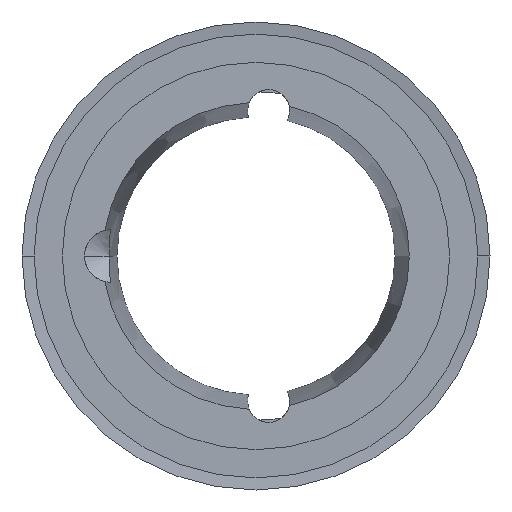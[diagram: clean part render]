
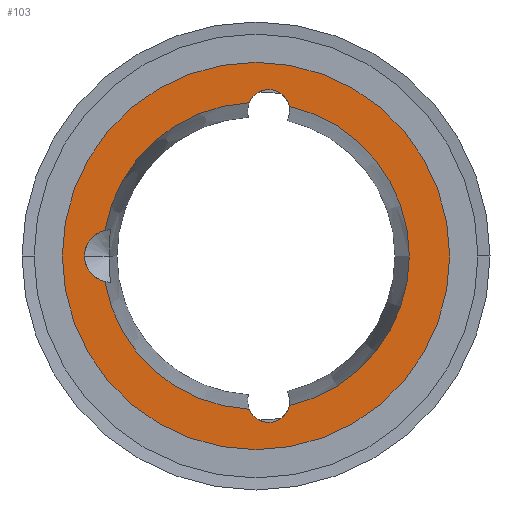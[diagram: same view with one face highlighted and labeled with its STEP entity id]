
A CAD part, left-side view. The second image highlights one B-rep face of the part: STEP entity #103.
In plain terms, the highlighted planar face has unit normal (-1, 0, 0).
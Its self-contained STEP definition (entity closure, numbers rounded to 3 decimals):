
#103 = ADVANCED_FACE( '', ( #368, #369 ), #370, .T. );
#368 = FACE_BOUND( '', #846, .T. );
#369 = FACE_OUTER_BOUND( '', #847, .T. );
#370 = PLANE( '', #848 );
#846 = EDGE_LOOP( '', ( #1484, #1485, #1486, #1487, #1488, #1489, #1490, #1491 ) );
#847 = EDGE_LOOP( '', ( #1492, #1493 ) );
#848 = AXIS2_PLACEMENT_3D( '', #1494, #1495, #1496 );
#1484 = ORIENTED_EDGE( '', *, *, #3404, .T. );
#1485 = ORIENTED_EDGE( '', *, *, #3395, .F. );
#1486 = ORIENTED_EDGE( '', *, *, #3411, .F. );
#1487 = ORIENTED_EDGE( '', *, *, #3385, .T. );
#1488 = ORIENTED_EDGE( '', *, *, #3412, .F. );
#1489 = ORIENTED_EDGE( '', *, *, #3372, .T. );
#1490 = ORIENTED_EDGE( '', *, *, #3415, .T. );
#1491 = ORIENTED_EDGE( '', *, *, #3391, .F. );
#1492 = ORIENTED_EDGE( '', *, *, #3331, .T. );
#1493 = ORIENTED_EDGE( '', *, *, #3416, .T. );
#1494 = CARTESIAN_POINT( '', ( 0., 32.25, 0. ) );
#1495 = DIRECTION( '', ( -1., 0., 0. ) );
#1496 = DIRECTION( '', ( 0., 1., 0. ) );
#3331 = EDGE_CURVE( '', #4005, #4009, #4011, .T. );
#3372 = EDGE_CURVE( '', #4086, #4083, #4087, .T. );
#3385 = EDGE_CURVE( '', #4108, #4106, #4109, .T. );
#3391 = EDGE_CURVE( '', #4117, #4119, #4120, .T. );
#3395 = EDGE_CURVE( '', #4124, #4127, #4128, .T. );
#3404 = EDGE_CURVE( '', #4117, #4127, #4141, .T. );
#3411 = EDGE_CURVE( '', #4108, #4124, #4149, .T. );
#3412 = EDGE_CURVE( '', #4086, #4106, #4150, .T. );
#3415 = EDGE_CURVE( '', #4083, #4119, #4153, .T. );
#3416 = EDGE_CURVE( '', #4009, #4005, #4154, .T. );
#4005 = VERTEX_POINT( '', #5127 );
#4009 = VERTEX_POINT( '', #5132 );
#4011 = CIRCLE( '', #5135, 36. );
#4083 = VERTEX_POINT( '', #5223 );
#4086 = VERTEX_POINT( '', #5227 );
#4087 = CIRCLE( '', #5228, 4.9 );
#4106 = VERTEX_POINT( '', #5293 );
#4108 = VERTEX_POINT( '', #5304 );
#4109 = CIRCLE( '', #5305, 3.95 );
#4117 = VERTEX_POINT( '', #5332 );
#4119 = VERTEX_POINT( '', #5343 );
#4120 = CIRCLE( '', #5344, 28.5 );
#4124 = VERTEX_POINT( '', #5382 );
#4127 = VERTEX_POINT( '', #5386 );
#4128 = CIRCLE( '', #5387, 28.5 );
#4141 = CIRCLE( '', #5420, 3.95 );
#4149 = CIRCLE( '', #5437, 28.5 );
#4150 = CIRCLE( '', #5438, 28.5 );
#4153 = CIRCLE( '', #5441, 4.9 );
#4154 = CIRCLE( '', #5442, 36. );
#5127 = CARTESIAN_POINT( '', ( 0., 36., 0. ) );
#5132 = CARTESIAN_POINT( '', ( 0., -36., 0. ) );
#5135 = AXIS2_PLACEMENT_3D( '', #6739, #6740, #6741 );
#5223 = CARTESIAN_POINT( '', ( 0., 31.885, 0. ) );
#5227 = CARTESIAN_POINT( '', ( 0., 28.098, -4.772 ) );
#5228 = AXIS2_PLACEMENT_3D( '', #6828, #6829, #6830 );
#5293 = CARTESIAN_POINT( '', ( 0., 1.308, -28.47 ) );
#5304 = CARTESIAN_POINT( '', ( 0., -6.214, -27.814 ) );
#5305 = AXIS2_PLACEMENT_3D( '', #6849, #6850, #6851 );
#5332 = CARTESIAN_POINT( '', ( 0., 1.308, 28.47 ) );
#5343 = CARTESIAN_POINT( '', ( 0., 28.098, 4.772 ) );
#5344 = AXIS2_PLACEMENT_3D( '', #6856, #6857, #6858 );
#5382 = CARTESIAN_POINT( '', ( 0., -28.5, 0. ) );
#5386 = CARTESIAN_POINT( '', ( 0., -6.214, 27.814 ) );
#5387 = AXIS2_PLACEMENT_3D( '', #6860, #6861, #6862 );
#5420 = AXIS2_PLACEMENT_3D( '', #6877, #6878, #6879 );
#5437 = AXIS2_PLACEMENT_3D( '', #6895, #6896, #6897 );
#5438 = AXIS2_PLACEMENT_3D( '', #6898, #6899, #6900 );
#5441 = AXIS2_PLACEMENT_3D( '', #6907, #6908, #6909 );
#5442 = AXIS2_PLACEMENT_3D( '', #6910, #6911, #6912 );
#6739 = CARTESIAN_POINT( '', ( 0., 0., 0. ) );
#6740 = DIRECTION( '', ( -1., 0., 0. ) );
#6741 = DIRECTION( '', ( 0., 1., 0. ) );
#6828 = CARTESIAN_POINT( '', ( 0., 26.985, 0. ) );
#6829 = DIRECTION( '', ( 1., 0., 0. ) );
#6830 = DIRECTION( '', ( 0., 1., 0. ) );
#6849 = CARTESIAN_POINT( '', ( 0., -2.352, -26.985 ) );
#6850 = DIRECTION( '', ( 1., 0., 0. ) );
#6851 = DIRECTION( '', ( 0., -1., 0. ) );
#6856 = CARTESIAN_POINT( '', ( 0., 0., 0. ) );
#6857 = DIRECTION( '', ( -1., 0., 0. ) );
#6858 = DIRECTION( '', ( 0., 1., 0. ) );
#6860 = CARTESIAN_POINT( '', ( 0., 0., 0. ) );
#6861 = DIRECTION( '', ( -1., 0., 0. ) );
#6862 = DIRECTION( '', ( 0., 1., 0. ) );
#6877 = CARTESIAN_POINT( '', ( 0., -2.352, 26.985 ) );
#6878 = DIRECTION( '', ( 1., 0., 0. ) );
#6879 = DIRECTION( '', ( 0., -1., 0. ) );
#6895 = CARTESIAN_POINT( '', ( 0., 0., 0. ) );
#6896 = DIRECTION( '', ( -1., 0., 0. ) );
#6897 = DIRECTION( '', ( 0., 1., 0. ) );
#6898 = CARTESIAN_POINT( '', ( 0., 0., 0. ) );
#6899 = DIRECTION( '', ( -1., 0., 0. ) );
#6900 = DIRECTION( '', ( 0., 1., 0. ) );
#6907 = CARTESIAN_POINT( '', ( 0., 26.985, 0. ) );
#6908 = DIRECTION( '', ( 1., 0., 0. ) );
#6909 = DIRECTION( '', ( 0., 1., 0. ) );
#6910 = CARTESIAN_POINT( '', ( 0., 0., 0. ) );
#6911 = DIRECTION( '', ( -1., 0., 0. ) );
#6912 = DIRECTION( '', ( 0., 1., 0. ) );
